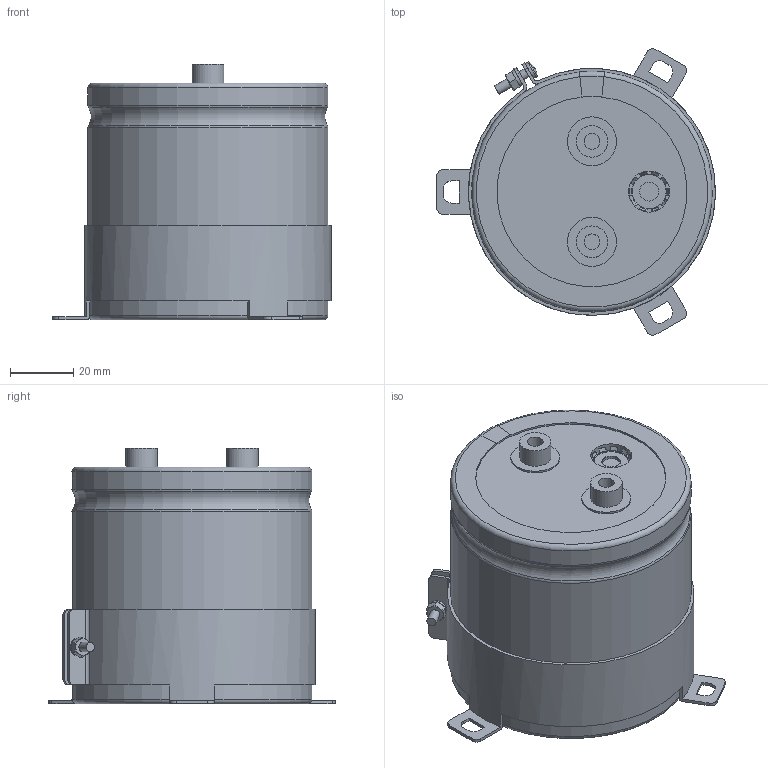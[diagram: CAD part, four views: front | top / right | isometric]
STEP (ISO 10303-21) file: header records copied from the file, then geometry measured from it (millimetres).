
FILE_DESCRIPTION(/* description */ (''),/* implementation_level */ '2;1');
FILE_NAME(/* name */ '76.2x75_Screw.stp',/* time_stamp */ '2017-09-17T13:14:20+09:00',/* author */ (''),/* organization */ (''),/* preprocessor_version */ 'ST-DEVELOPER v16',/* originating_system */ 'SIEMENS PLM Software NX 11.0',/* authorisation */ '');
FILE_SCHEMA (('AUTOMOTIVE_DESIGN { 1 0 10303 214 3 1 1 1 }'));
Length unit declared in the file: millimetre
Products named in the file (1): 76.2x75_Screw
Bounding box: 88.3 x 90.75 x 81 mm (x, y, z)
Volume: 344414.2 mm3; surface area: 84177.4 mm2
Topology: 9 solids, 9 shells, 259 faces, 642 edges, 413 vertices
Faces by surface type: plane 112, cylinder 66, torus 49, cone 31, sphere 1
Full cylindrical faces by diameter (mm): 3 x5, 5 x2, 5.5 x2, 6 x4, 8 x1, 10 x2, 13 x2, 15.5 x2, 75 x2
Entity records: 8534 total; most frequent: CARTESIAN_POINT 2182, DIRECTION 1296, ORIENTED_EDGE 1214, EDGE_CURVE 607, AXIS2_PLACEMENT_3D 541, VERTEX_POINT 408, EDGE_LOOP 317, CIRCLE 281
